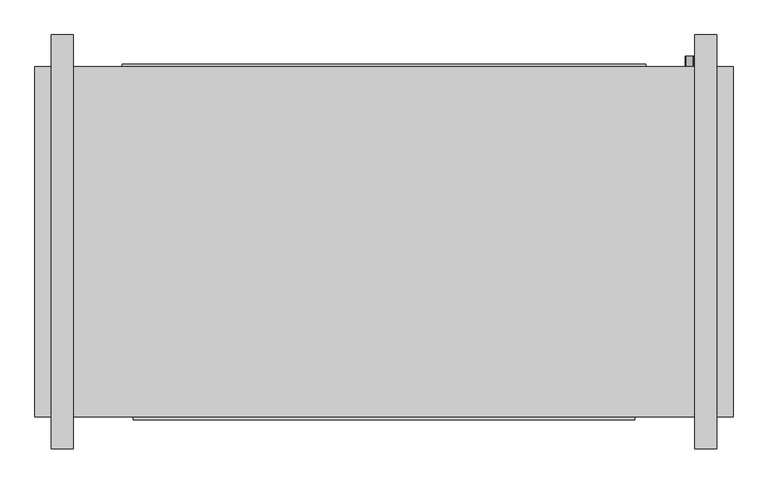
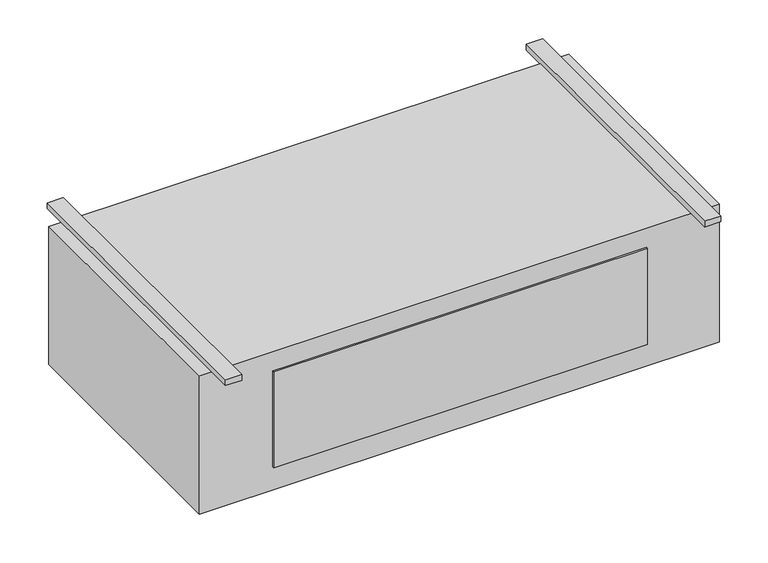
"""IFC4 building model written with IfcOpenShell, lengths in millimetres: proxy geometry, Exposed_High_Capacity_Horizontal_Cabinet_Fan_Coil_Unit_-_42DFA_-_CARRIER_-_4-Pipe_RH_2022 : Size 20 - 277v/60Hz/1Ph - 6/2 Coil."""

from ifc_helpers import new_model, si_unit, point, frame, frame_2d, origin, origin_with_axes, place, context, project, spatial, polyline, circle_curve, trimmed, segment, composite_curve, outline, extrude, source, transform, mapped, element, save


def mechanical_equipment_97658934(model_context):
    return source(origin(), model_context, "Body", "SweptSolid", [
        extrude(outline(composite_curve([segment(trimmed(circle_curve(frame_2d((-406.4, 863.6)), 9.525), [point((-406.4, 854.075))], [point((-406.4, 873.125))], False, "CARTESIAN"), True, "CONTINUOUS"), segment(trimmed(circle_curve(frame_2d((-406.4, 863.6)), 9.525), [point((-406.4, 873.125))], [point((-406.4, 854.075))], False, "CARTESIAN"), True, "CONTINUOUS")], self_intersect=False)), frame((0.0, 169.8625, 0.0), z_axis=(0.0, 1.0, 0.0), x_axis=(0.0, 0.0, 1.0)), (0.0, 0.0, 1.0), 25.4),
        extrude(outline(composite_curve([segment(trimmed(circle_curve(frame_2d((-330.2, 863.6)), 7.9375), [point((-330.2, 855.6625))], [point((-330.2, 871.5375))], False, "CARTESIAN"), True, "CONTINUOUS"), segment(trimmed(circle_curve(frame_2d((-330.2, 863.6)), 7.9375), [point((-330.2, 871.5375))], [point((-330.2, 855.6625))], False, "CARTESIAN"), True, "CONTINUOUS")], self_intersect=False)), frame((0.0, 169.8625, 0.0), z_axis=(0.0, 1.0, 0.0), x_axis=(0.0, 0.0, 1.0)), (0.0, 0.0, 1.0), 25.4),
        extrude(outline(composite_curve([segment(trimmed(circle_curve(frame_2d((-254.0, 863.6)), 7.9375), [point((-254.0, 855.6625))], [point((-254.0, 871.5375))], False, "CARTESIAN"), True, "CONTINUOUS"), segment(trimmed(circle_curve(frame_2d((-254.0, 863.6)), 7.9375), [point((-254.0, 871.5375))], [point((-254.0, 855.6625))], False, "CARTESIAN"), True, "CONTINUOUS")], self_intersect=False)), frame((0.0, 169.8625, 0.0), z_axis=(0.0, 1.0, 0.0), x_axis=(0.0, 0.0, 1.0)), (0.0, 0.0, 1.0), 25.4),
        extrude(outline(composite_curve([segment(trimmed(circle_curve(frame_2d((-177.8, 863.6)), 7.9375), [point((-177.8, 855.6625))], [point((-177.8, 871.5375))], False, "CARTESIAN"), True, "CONTINUOUS"), segment(trimmed(circle_curve(frame_2d((-177.8, 863.6)), 7.9375), [point((-177.8, 871.5375))], [point((-177.8, 855.6625))], False, "CARTESIAN"), True, "CONTINUOUS")], self_intersect=False)), frame((0.0, 169.8625, 0.0), z_axis=(0.0, 1.0, 0.0), x_axis=(0.0, 0.0, 1.0)), (0.0, 0.0, 1.0), 25.4),
        extrude(outline(composite_curve([segment(trimmed(circle_curve(frame_2d((-101.6, 863.6)), 7.9375), [point((-101.6, 855.6625))], [point((-101.6, 871.5375))], False, "CARTESIAN"), True, "CONTINUOUS"), segment(trimmed(circle_curve(frame_2d((-101.6, 863.6)), 7.9375), [point((-101.6, 871.5375))], [point((-101.6, 855.6625))], False, "CARTESIAN"), True, "CONTINUOUS")], self_intersect=False)), frame((0.0, 169.8625, 0.0), z_axis=(0.0, 1.0, 0.0), x_axis=(0.0, 0.0, 1.0)), (0.0, 0.0, 1.0), 25.4),
        extrude(outline(polyline([(965.2, 169.8625), (965.2, -646.1125), (-660.4, -646.1125), (-660.4, 169.8625), (965.2, 169.8625)])), frame((0.0, 0.0, -457.2), z_axis=(0.0, 0.0, 1.0), x_axis=(1.0, 0.0, 0.0)), (0.0, 0.0, 1.0), 457.2),
        extrude(outline(polyline([(-457.2, 176.2125), (762.0, 176.2125), (762.0, 169.8625), (-457.2, 169.8625), (-457.2, 176.2125)])), frame((0.0, 0.0, -381.0), z_axis=(0.0, 0.0, 1.0), x_axis=(1.0, 0.0, 0.0)), (0.0, 0.0, 1.0), 355.6),
        extrude(outline(polyline([(-571.5, 244.475), (-571.5, -720.725), (-622.3, -720.725), (-622.3, 244.475), (-571.5, 244.475)])), origin_with_axes(), (0.0, 0.0, 1.0), 19.05),
        extrude(outline(polyline([(927.1, 244.475), (927.1, -720.725), (876.3, -720.725), (876.3, 244.475), (927.1, 244.475)])), origin_with_axes(), (0.0, 0.0, 1.0), 19.05),
        extrude(outline(polyline([(736.6, -652.4625), (-431.8, -652.4625), (-431.8, -646.1125), (736.6, -646.1125), (736.6, -652.4625)])), frame((0.0, 0.0, -381.0), z_axis=(0.0, 0.0, 1.0), x_axis=(1.0, 0.0, 0.0)), (0.0, 0.0, 1.0), 317.5),
    ])


if __name__ == "__main__":
    model = new_model("IFC4")
    model_context = context("Model", 3, world=origin())
    ifc_project = project(units=[si_unit("LENGTHUNIT", "METRE", prefix="MILLI")], contexts=[model_context])
    site = spatial("IfcSite", under=ifc_project)
    building = spatial("IfcBuilding", under=site)
    placement = place(None, origin())
    mechanical_equipment_shape = mechanical_equipment_97658934(model_context)
    element("IfcBuildingElementProxy", 1, Name="Exposed_High_Capacity_Horizontal_Cabinet_Fan_Coil_Unit_-_42DFA_-_CARRIER_-_4-Pipe_RH_2022 : Size 20 - 277v/60Hz/1Ph - 6/2 Coil", ObjectType="Exposed_High_Capacity_Horizontal_Cabinet_Fan_Coil_Unit_-_42DFA_-_CARRIER_-_4-Pipe_RH_2022 : Size 20 - 277v/60Hz/1Ph - 6/2 Coil", at=placement, inside=building, context=model_context, shape_type="MappedRepresentation", body=[
        mapped(mechanical_equipment_shape, transform((0.0, 0.0, 0.0), x_axis=(1.0, 0.0, 0.0), y_axis=(0.0, 1.0, 0.0), z_axis=(0.0, 0.0, 1.0))),
    ])
    save(model, "model.ifc")
